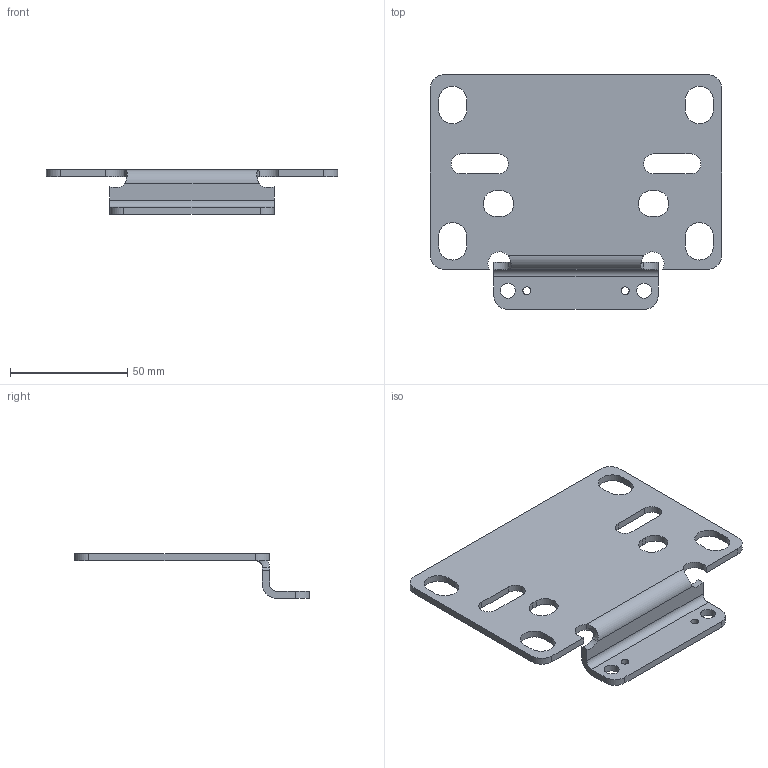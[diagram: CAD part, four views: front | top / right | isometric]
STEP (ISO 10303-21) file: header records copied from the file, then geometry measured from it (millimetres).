
FILE_DESCRIPTION((''),'2;1');
FILE_NAME('K:\ZEICHNG\webgrafik.intern\Air-Techniques Befestigungen und Behälter\step\ZW.55.stp','2013-06-20T09:53:05',('RJanz'),(''),'Autodesk Inventor 2013','Autodesk Inventor 2013','');
FILE_SCHEMA(('CONFIG_CONTROL_DESIGN'));
Length unit declared in the file: millimetre
Products named in the file (1): 10000738
Bounding box: 124 x 100 x 19 mm (x, y, z)
Volume: 32365.7 mm3; surface area: 24411.3 mm2
Topology: 1 solids, 1 shells, 66 faces, 188 edges, 124 vertices
Faces by surface type: cylinder 34, plane 30, bspline 2
Full cylindrical faces by diameter (mm): 3.3 x2, 6.4 x2
Entity records: 2286 total; most frequent: CARTESIAN_POINT 465, DIRECTION 370, ORIENTED_EDGE 368, EDGE_CURVE 184, AXIS2_PLACEMENT_3D 129, VERTEX_POINT 124, VECTOR 112, LINE 112
